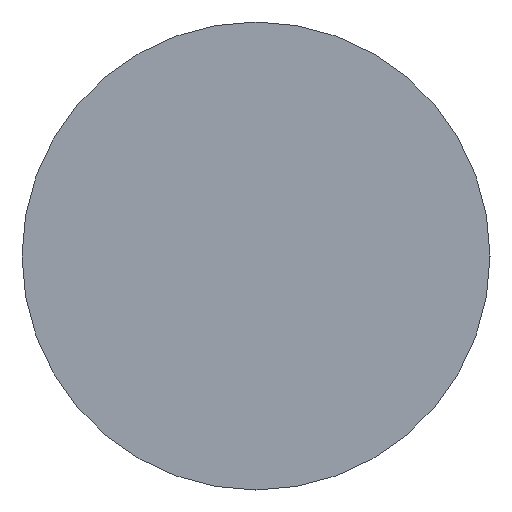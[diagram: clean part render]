
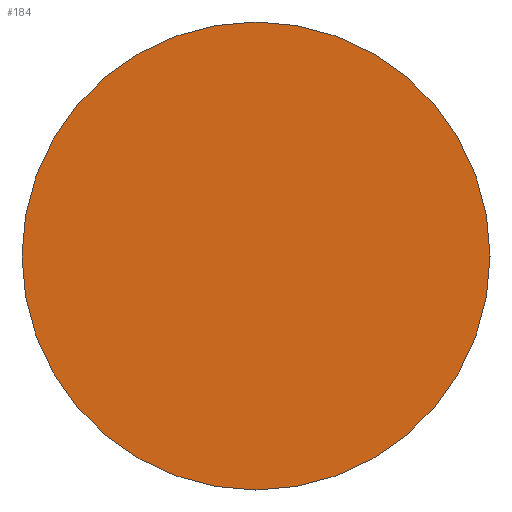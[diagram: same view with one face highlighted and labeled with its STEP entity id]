
A CAD part, front view. The second image highlights one B-rep face of the part: STEP entity #184.
In plain terms, the highlighted planar face has unit normal (0, -1, 0).
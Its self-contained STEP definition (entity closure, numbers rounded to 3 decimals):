
#161=CARTESIAN_POINT('',(3.5,-12.1,0.0));
#162=VERTEX_POINT('',#161);
#163=CARTESIAN_POINT('',(0.0,-12.1,0.0));
#164=DIRECTION('',(0.0,-1.0,0.0));
#165=DIRECTION('',(1.0,0.0,0.0));
#166=AXIS2_PLACEMENT_3D('',#163,#164,#165);
#167=CIRCLE('',#166,3.5);
#168=EDGE_CURVE('',#162,#162,#167,.T.);
#176=CARTESIAN_POINT('',(1.75,-12.1,0.0));
#177=DIRECTION('',(0.0,-1.0,0.0));
#178=DIRECTION('',(0.0,0.0,-1.0));
#179=AXIS2_PLACEMENT_3D('',#176,#177,#178);
#180=PLANE('',#179);
#181=ORIENTED_EDGE('',*,*,#168,.T.);
#182=EDGE_LOOP('',(#181));
#183=FACE_OUTER_BOUND('',#182,.T.);
#184=ADVANCED_FACE('',(#183),#180,.T.);
